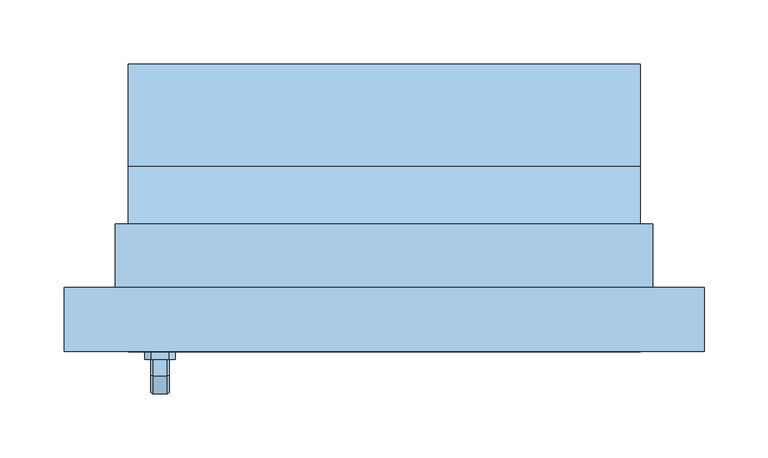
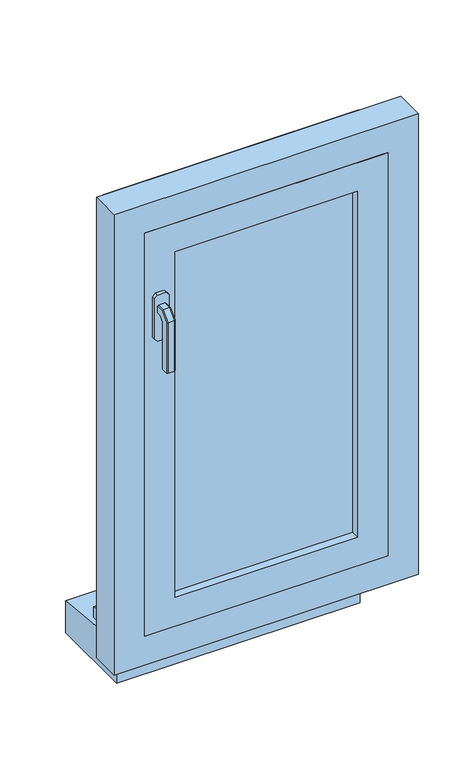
"""IFC4 building model written with IfcOpenShell, lengths in millimetres: window geometry, 1 Vantail droit - Volet et petits bois : 0.40m x 0.75m - Appui Béton."""

from ifc_helpers import new_model, si_unit, frame, origin, place, context, project, spatial, polyline, outline, extrude, faceted_brep, source, transform, mapped, element, save


def window_832ac1ed(model_context):
    return source(origin(), model_context, "Body", "SolidModel", [
        faceted_brep([(-169.3539903, -111.0, 1422.0339292), (-167.9660708, -111.0, 1420.6460097), (-167.9660708, -111.0, 1409.3323012), (-169.3323012, -111.0, 1407.9660708), (-180.6676988, -111.0, 1407.9660708), (-182.0339292, -111.0, 1409.3323012), (-182.0339292, -111.0, 1420.6460097), (-180.6460097, -111.0, 1422.0339292), (-169.3539903, -123.9135489, 1422.0339292), (-167.9660708, -123.3386538, 1420.6460097), (-167.9660708, -136.6460097, 1407.3386538), (-167.9660708, -136.6460097, 1320.0), (-167.9660708, -125.3323012, 1320.0), (-167.9660708, -125.3323012, 1402.6523623), (-167.9660708, -118.6523623, 1409.3323012), (-169.3323012, -118.0864511, 1407.9660708), (-180.6676988, -118.0864511, 1407.9660708), (-182.0339292, -118.6523623, 1409.3323012), (-182.0339292, -125.3323012, 1402.6523623), (-182.0339292, -125.3323012, 1320.0), (-182.0339292, -136.6460097, 1320.0), (-182.0339292, -136.6460097, 1407.3386538), (-182.0339292, -123.3386538, 1420.6460097), (-180.6460097, -123.9135489, 1422.0339292), (-169.3539903, -138.0339292, 1407.9135489), (-169.3323012, -123.9660708, 1402.0864511), (-180.6676988, -123.9660708, 1402.0864511), (-180.6460097, -138.0339292, 1407.9135489), (-169.3539903, -138.0339292, 1320.0), (-180.6460097, -138.0339292, 1320.0), (-180.6676988, -123.9660708, 1320.0), (-169.3323012, -123.9660708, 1320.0)], [[[0, 1, 2, 3, 4, 5, 6, 7]], [[1, 0, 8, 9]], [[2, 1, 9, 10, 11, 12, 13, 14]], [[3, 2, 14, 15]], [[4, 3, 15, 16]], [[5, 4, 16, 17]], [[6, 5, 17, 18, 19, 20, 21, 22]], [[7, 6, 22, 23]], [[0, 7, 23, 8]], [[9, 8, 24, 10]], [[15, 14, 13, 25]], [[16, 15, 25, 26]], [[17, 16, 26, 18]], [[23, 22, 21, 27]], [[8, 23, 27, 24]], [[28, 29, 20, 19, 30, 31, 12, 11]], [[10, 24, 28, 11]], [[25, 13, 12, 31]], [[26, 25, 31, 30]], [[18, 26, 30, 19]], [[27, 21, 20, 29]], [[24, 27, 29, 28]]]),
        extrude(outline(polyline([(1440.0, -168.0), (1440.0, -182.0), (1435.0, -187.0), (1365.0, -187.0), (1360.0, -182.0), (1360.0, -168.0), (1365.0, -163.0), (1435.0, -163.0), (1440.0, -168.0)])), frame((0.0, -111.0, 0.0), z_axis=(0.0, 1.0, 0.0), x_axis=(0.0, 0.0, 1.0)), (0.0, 0.0, 1.0), 6.0),
        extrude(outline(polyline([(-25.0, 800.0), (25.0, 800.0), (25.0, 785.0), (120.0, 775.0150976), (120.0, 720.0), (-25.0, 720.0), (-25.0, 800.0)])), frame((-200.0, 0.0, 0.0), z_axis=(1.0, 0.0, 0.0), x_axis=(0.0, 1.0, 0.0)), (0.0, 0.0, 1.0), 400.0),
        extrude(outline(polyline([(-150.0, -79.0), (150.0, -79.0), (150.0, -91.0), (-150.0, -91.0), (-150.0, -79.0)])), frame((0.0, 0.0, 900.0), z_axis=(0.0, 0.0, 1.0), x_axis=(1.0, 0.0, 0.0)), (0.0, 0.0, 1.0), 600.0),
        extrude(outline(polyline([(850.0, 200.0), (1550.0, 200.0), (1550.0, -200.0), (850.0, -200.0), (850.0, 200.0)]), holes=[polyline([(900.0, -150.0), (1500.0, -150.0), (1500.0, 150.0), (900.0, 150.0), (900.0, -150.0)])]), frame((0.0, -105.0, 0.0), z_axis=(0.0, 1.0, 0.0), x_axis=(0.0, 0.0, 1.0)), (0.0, 0.0, 1.0), 40.0),
        faceted_brep([(-250.0, -105.0, 800.0), (-250.0, -55.0, 800.0), (-200.0, -55.0, 800.0), (-200.0, 30.0, 800.0), (200.0, 30.0, 800.0), (200.0, -55.0, 800.0), (250.0, -55.0, 800.0), (250.0, -105.0, 800.0), (-250.0, -105.0, 1600.0), (-250.0, -55.0, 1600.0), (250.0, -55.0, 1600.0), (200.0, -55.0, 839.3761425), (-200.0, -55.0, 839.3761425), (-185.0, -55.0, 1535.0), (-185.0, -55.0, 865.0), (185.0, -55.0, 865.0), (185.0, -55.0, 1535.0), (-200.0, 40.0, 813.9209692), (-200.0, 40.0, 795.0), (-200.0, 30.0, 795.0), (200.0, 30.0, 795.0), (200.0, 40.0, 795.0), (200.0, 40.0, 813.9209692), (250.0, -105.0, 1600.0), (200.0, -105.0, 1550.0), (200.0, -105.0, 850.0), (-200.0, -105.0, 850.0), (-200.0, -105.0, 1550.0), (-185.0, -65.0, 1535.0), (-185.0, -65.0, 865.0), (185.0, -65.0, 865.0), (185.0, -65.0, 1535.0), (200.0, -65.0, 1550.0), (-200.0, -65.0, 1550.0), (-200.0, -65.0, 850.0), (200.0, -65.0, 850.0)], [[[0, 1, 2, 3, 4, 5, 6, 7]], [[1, 0, 8, 9]], [[1, 9, 10, 6, 5, 11, 12, 2], [13, 14, 15, 16]], [[12, 17, 18, 19, 3, 2]], [[3, 19, 20, 4]], [[4, 20, 21, 22, 11, 5]], [[6, 10, 23, 7]], [[0, 7, 23, 8], [24, 25, 26, 27]], [[13, 28, 29, 14]], [[29, 30, 15, 14]], [[31, 16, 15, 30]], [[17, 12, 11, 22]], [[32, 33, 34, 35], [28, 31, 30, 29]], [[34, 33, 27, 26]], [[26, 25, 35, 34]], [[24, 32, 35, 25]], [[18, 17, 22, 21]], [[19, 18, 21, 20]], [[13, 16, 31, 28]], [[33, 32, 24, 27]], [[10, 9, 8, 23]]]),
        extrude(outline(polyline([(800.0, -210.0), (800.0, -200.0), (1550.0, -200.0), (1550.0, 200.0), (800.0, 200.0), (800.0, 210.0), (1560.0, 210.0), (1560.0, -210.0), (800.0, -210.0)])), frame((0.0, -55.0, 0.0), z_axis=(0.0, 1.0, 0.0), x_axis=(0.0, 0.0, 1.0)), (0.0, 0.0, 1.0), 50.0),
    ])


if __name__ == "__main__":
    model = new_model("IFC4")
    model_context = context("Model", 3, world=origin())
    ifc_project = project(units=[si_unit("LENGTHUNIT", "METRE", prefix="MILLI")], contexts=[model_context])
    site = spatial("IfcSite", under=ifc_project)
    building = spatial("IfcBuilding", under=site)
    placement = place(None, origin())
    window_shape = window_832ac1ed(model_context)
    element("IfcWindow", 1, ObjectType="1 Vantail droit - Volet et petits bois : 0.40m x 0.75m - Appui Béton", at=placement, inside=building, context=model_context, shape_type="MappedRepresentation", body=[
        mapped(window_shape, transform((0.0, 0.0, 0.0), x_axis=(1.0, 0.0, 0.0), y_axis=(0.0, 1.0, 0.0), z_axis=(0.0, 0.0, 1.0))),
    ])
    save(model, "model.ifc")
